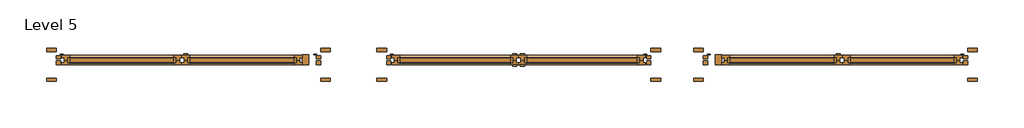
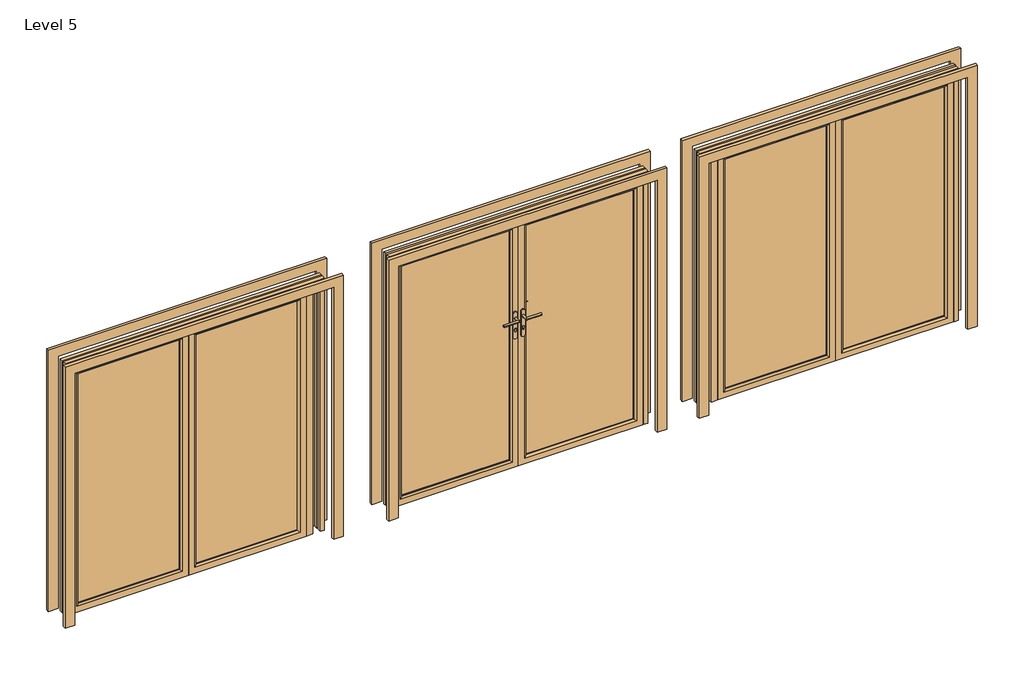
# One storey: 3 doors.
"""IFC4 building model written with IfcOpenShell, lengths in millimetres."""

from ifc_helpers import new_model, si_unit, origin, place, context, project, spatial, transform, mapped, element, save
from components import standard_de9cbb4d, standard_8fe2b8a2, standard_30918d1a

model = new_model("IFC4")

# Units and contexts
model_context = context("Model", 3, world=origin())
ifc_project = project(units=[si_unit("LENGTHUNIT", "METRE", prefix="MILLI")], contexts=[model_context])

# Site, building, storey
site = spatial("IfcSite", under=ifc_project)
building = spatial("IfcBuilding", under=site)
storey = spatial("IfcBuildingStorey", under=building, Name="Level 5", Elevation=12000.0)

# Doors
placement = place(None, origin())
standard_shape = standard_de9cbb4d(model_context)
element("IfcDoor", 1, ObjectType="SMARTS_Visofold1000 : Standard", at=placement, inside=storey, context=model_context, shape_type="MappedRepresentation", body=[
    mapped(standard_shape, transform((-192662.6139854, 24312.6264647, 12100.0), x_axis=(1.0, 0.0, 0.0), y_axis=(0.0, 1.0, 0.0), z_axis=(0.0, 0.0, 1.0))),
])
standard_2_shape = standard_8fe2b8a2(model_context)
element("IfcDoor", 2, ObjectType="SMARTS_Visofold1000 : Standard", at=placement, inside=storey, context=model_context, shape_type="MappedRepresentation", body=[
    mapped(standard_2_shape, transform((-195062.6139854, 24312.6264647, 12100.0), x_axis=(1.0, 0.0, 0.0), y_axis=(0.0, 1.0, 0.0), z_axis=(0.0, 0.0, 1.0))),
])
standard_3_shape = standard_30918d1a(model_context)
element("IfcDoor", 3, ObjectType="SMARTS_Visofold1000 : Standard", at=placement, inside=storey, context=model_context, shape_type="MappedRepresentation", body=[
    mapped(standard_3_shape, transform((-197562.6139854, 24312.6264647, 12100.0), x_axis=(1.0, 0.0, 0.0), y_axis=(0.0, 1.0, 0.0), z_axis=(0.0, 0.0, 1.0))),
])

save(model, "model.ifc")
